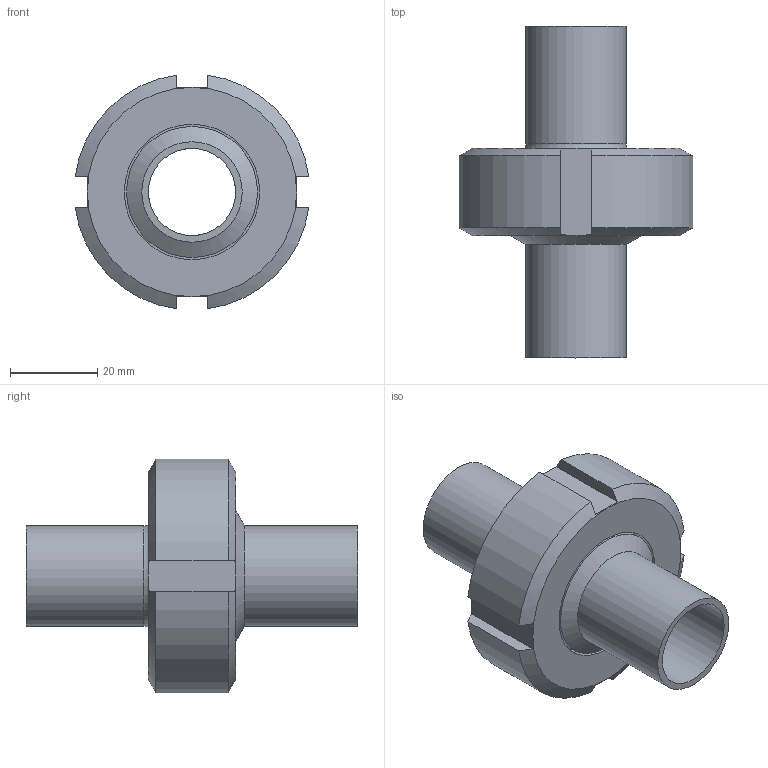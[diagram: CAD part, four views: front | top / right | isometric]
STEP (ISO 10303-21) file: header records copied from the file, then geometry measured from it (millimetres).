
FILE_DESCRIPTION(/* description */ ('Aseptik_Rohrverbindung_DIN 11864-1-A_23x1,50_L76'),/* implementation_level */ '2;1');
FILE_NAME(/* name */ 'L:\Normteile\N0024 - Rohrverbindungen\N0024_002 - DIN11864\N0024_002_001 - geschraubt\N0024_002_001\Step Marketing\DIN11864-1-A_23x1,50_L76.stp',/* time_stamp */ '2021-08-31T09:44:45+02:00',/* author */ ('Csasse'),/* organization */ ('Dockweiler AG'),/* preprocessor_version */ 'ST-DEVELOPER v18',/* originating_system */ 'Autodesk Inventor 2020',/* authorisation */ '');
FILE_SCHEMA (('AUTOMOTIVE_DESIGN { 1 0 10303 214 3 1 1 }'));
Length unit declared in the file: millimetre
Products named in the file (5): N0024_002_001_31; N0003_007_001_03; N0003_007_002_03; N0005_005_002_001_02; N0009_009_13
Assembly tree (4 placements, depth 2):
  N0024_002_001_31
    N0003_007_001_03
    N0003_007_002_03
    N0005_005_002_001_02
    N0009_009_13
Bounding box: 53.54 x 76 x 53.54 mm (x, y, z)
Volume: 45240.1 mm3; surface area: 25361.9 mm2
Topology: 4 solids, 4 shells, 60 faces, 176 edges, 128 vertices
Faces by surface type: plane 24, cylinder 14, torus 12, cone 10
Full cylindrical faces by diameter (mm): 20 x2, 23 x2, 30 x1, 31 x1, 35.9 x1, 36 x1, 39.767 x1, 44.423 x1
Entity records: 2344 total; most frequent: CARTESIAN_POINT 425, DIRECTION 402, ORIENTED_EDGE 352, AXIS2_PLACEMENT_3D 183, EDGE_CURVE 176, VERTEX_POINT 128, CIRCLE 114, EDGE_LOOP 72
